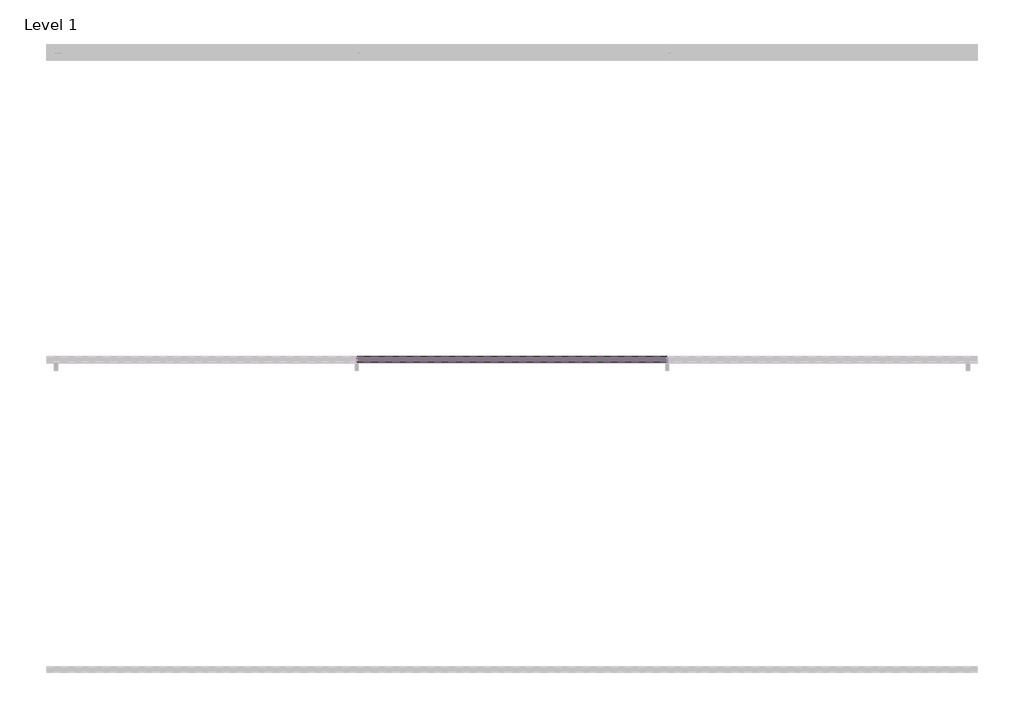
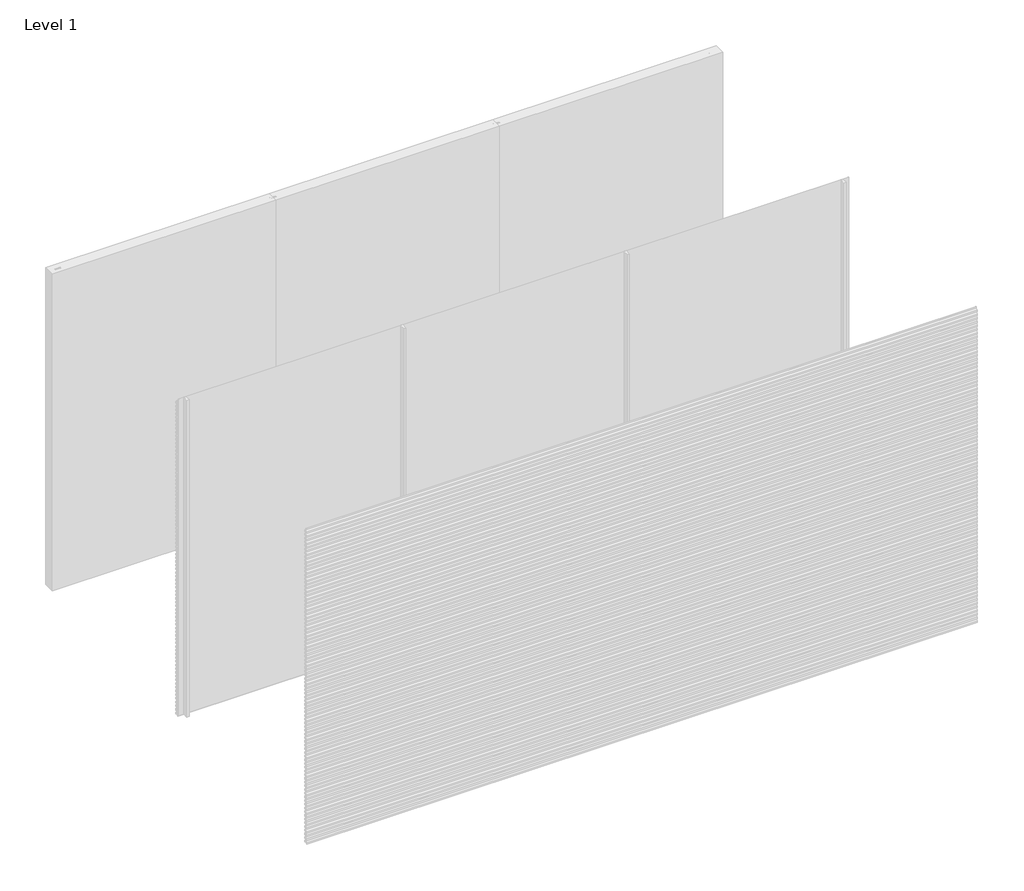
# One storey, part 12 of 17: 81 proxies.
"""IFC4 building model written with IfcOpenShell, lengths in millimetres."""

from ifc_helpers import new_model, si_unit, frame, origin, place, context, project, spatial, polyline, outline, extrude, element, save

model = new_model("IFC4")

# Units and contexts
model_context = context("Model", 3, world=origin())
ifc_project = project(units=[si_unit("LENGTHUNIT", "METRE", prefix="MILLI")], contexts=[model_context])

# Site, building, storey
site = spatial("IfcSite", under=ifc_project)
building = spatial("IfcBuilding", under=site)
storey = spatial("IfcBuildingStorey", under=building, Name="Level 1", Elevation=0.0)

# Proxies
placement = place(None, origin())
element("IfcBuildingElementProxy", 1, Name="Wall Sweeps", at=placement, inside=storey, context=model_context, shape_type="SweptSolid", body=[
    extrude(outline(polyline([(-5961.0, 2776.5), (-5961.0, 2761.5), (-5979.0, 2773.6411533), (-5997.0, 2761.5), (-5997.0, 2776.5), (-5980.0, 2787.9666448), (-5980.0, 2800.0), (-5978.0, 2800.0), (-5978.0, 2787.9666448), (-5961.0, 2776.5)])), frame((2000.0, 0.0, 0.0), z_axis=(1.0, 0.0, 0.0), x_axis=(0.0, 1.0, 0.0)), (0.0, 0.0, 1.0), 2000.0),
])
element("IfcBuildingElementProxy", 2, Name="Wall Sweeps", at=placement, inside=storey, context=model_context, shape_type="SweptSolid", body=[
    extrude(outline(polyline([(-5961.0, 2741.5), (-5961.0, 2726.5), (-5979.0, 2738.6411533), (-5997.0, 2726.5), (-5997.0, 2741.5), (-5980.0, 2752.9666448), (-5980.0, 2765.0), (-5978.0, 2765.0), (-5978.0, 2752.9666448), (-5961.0, 2741.5)])), frame((2000.0, 0.0, 0.0), z_axis=(1.0, 0.0, 0.0), x_axis=(0.0, 1.0, 0.0)), (0.0, 0.0, 1.0), 2000.0),
])
element("IfcBuildingElementProxy", 3, Name="Wall Sweeps", at=placement, inside=storey, context=model_context, shape_type="SweptSolid", body=[
    extrude(outline(polyline([(-5961.0, 2706.5), (-5961.0, 2691.5), (-5979.0, 2703.6411533), (-5997.0, 2691.5), (-5997.0, 2706.5), (-5980.0, 2717.9666448), (-5980.0, 2730.0), (-5978.0, 2730.0), (-5978.0, 2717.9666448), (-5961.0, 2706.5)])), frame((2000.0, 0.0, 0.0), z_axis=(1.0, 0.0, 0.0), x_axis=(0.0, 1.0, 0.0)), (0.0, 0.0, 1.0), 2000.0),
])
element("IfcBuildingElementProxy", 4, Name="Wall Sweeps", at=placement, inside=storey, context=model_context, shape_type="SweptSolid", body=[
    extrude(outline(polyline([(-5961.0, 2671.5), (-5961.0, 2656.5), (-5979.0, 2668.6411533), (-5997.0, 2656.5), (-5997.0, 2671.5), (-5980.0, 2682.9666448), (-5980.0, 2695.0), (-5978.0, 2695.0), (-5978.0, 2682.9666448), (-5961.0, 2671.5)])), frame((2000.0, 0.0, 0.0), z_axis=(1.0, 0.0, 0.0), x_axis=(0.0, 1.0, 0.0)), (0.0, 0.0, 1.0), 2000.0),
])
element("IfcBuildingElementProxy", 5, Name="Wall Sweeps", at=placement, inside=storey, context=model_context, shape_type="SweptSolid", body=[
    extrude(outline(polyline([(-5961.0, 2636.5), (-5961.0, 2621.5), (-5979.0, 2633.6411533), (-5997.0, 2621.5), (-5997.0, 2636.5), (-5980.0, 2647.9666448), (-5980.0, 2660.0), (-5978.0, 2660.0), (-5978.0, 2647.9666448), (-5961.0, 2636.5)])), frame((2000.0, 0.0, 0.0), z_axis=(1.0, 0.0, 0.0), x_axis=(0.0, 1.0, 0.0)), (0.0, 0.0, 1.0), 2000.0),
])
element("IfcBuildingElementProxy", 6, Name="Wall Sweeps", at=placement, inside=storey, context=model_context, shape_type="SweptSolid", body=[
    extrude(outline(polyline([(-5961.0, 2601.5), (-5961.0, 2586.5), (-5979.0, 2598.6411533), (-5997.0, 2586.5), (-5997.0, 2601.5), (-5980.0, 2612.9666448), (-5980.0, 2625.0), (-5978.0, 2625.0), (-5978.0, 2612.9666448), (-5961.0, 2601.5)])), frame((2000.0, 0.0, 0.0), z_axis=(1.0, 0.0, 0.0), x_axis=(0.0, 1.0, 0.0)), (0.0, 0.0, 1.0), 2000.0),
])
element("IfcBuildingElementProxy", 7, Name="Wall Sweeps", at=placement, inside=storey, context=model_context, shape_type="SweptSolid", body=[
    extrude(outline(polyline([(-5961.0, 2566.5), (-5961.0, 2551.5), (-5979.0, 2563.6411533), (-5997.0, 2551.5), (-5997.0, 2566.5), (-5980.0, 2577.9666448), (-5980.0, 2590.0), (-5978.0, 2590.0), (-5978.0, 2577.9666448), (-5961.0, 2566.5)])), frame((2000.0, 0.0, 0.0), z_axis=(1.0, 0.0, 0.0), x_axis=(0.0, 1.0, 0.0)), (0.0, 0.0, 1.0), 2000.0),
])
element("IfcBuildingElementProxy", 8, Name="Wall Sweeps", at=placement, inside=storey, context=model_context, shape_type="SweptSolid", body=[
    extrude(outline(polyline([(-5961.0, 2531.5), (-5961.0, 2516.5), (-5979.0, 2528.6411533), (-5997.0, 2516.5), (-5997.0, 2531.5), (-5980.0, 2542.9666448), (-5980.0, 2555.0), (-5978.0, 2555.0), (-5978.0, 2542.9666448), (-5961.0, 2531.5)])), frame((2000.0, 0.0, 0.0), z_axis=(1.0, 0.0, 0.0), x_axis=(0.0, 1.0, 0.0)), (0.0, 0.0, 1.0), 2000.0),
])
element("IfcBuildingElementProxy", 9, Name="Wall Sweeps", at=placement, inside=storey, context=model_context, shape_type="SweptSolid", body=[
    extrude(outline(polyline([(-5961.0, 2496.5), (-5961.0, 2481.5), (-5979.0, 2493.6411533), (-5997.0, 2481.5), (-5997.0, 2496.5), (-5980.0, 2507.9666448), (-5980.0, 2520.0), (-5978.0, 2520.0), (-5978.0, 2507.9666448), (-5961.0, 2496.5)])), frame((2000.0, 0.0, 0.0), z_axis=(1.0, 0.0, 0.0), x_axis=(0.0, 1.0, 0.0)), (0.0, 0.0, 1.0), 2000.0),
])
element("IfcBuildingElementProxy", 10, Name="Wall Sweeps", at=placement, inside=storey, context=model_context, shape_type="SweptSolid", body=[
    extrude(outline(polyline([(-5961.0, 2461.5), (-5961.0, 2446.5), (-5979.0, 2458.6411533), (-5997.0, 2446.5), (-5997.0, 2461.5), (-5980.0, 2472.9666448), (-5980.0, 2485.0), (-5978.0, 2485.0), (-5978.0, 2472.9666448), (-5961.0, 2461.5)])), frame((2000.0, 0.0, 0.0), z_axis=(1.0, 0.0, 0.0), x_axis=(0.0, 1.0, 0.0)), (0.0, 0.0, 1.0), 2000.0),
])
element("IfcBuildingElementProxy", 11, Name="Wall Sweeps", at=placement, inside=storey, context=model_context, shape_type="SweptSolid", body=[
    extrude(outline(polyline([(-5961.0, 2426.5), (-5961.0, 2411.5), (-5979.0, 2423.6411533), (-5997.0, 2411.5), (-5997.0, 2426.5), (-5980.0, 2437.9666448), (-5980.0, 2450.0), (-5978.0, 2450.0), (-5978.0, 2437.9666448), (-5961.0, 2426.5)])), frame((2000.0, 0.0, 0.0), z_axis=(1.0, 0.0, 0.0), x_axis=(0.0, 1.0, 0.0)), (0.0, 0.0, 1.0), 2000.0),
])
element("IfcBuildingElementProxy", 12, Name="Wall Sweeps", at=placement, inside=storey, context=model_context, shape_type="SweptSolid", body=[
    extrude(outline(polyline([(-5961.0, 2391.5), (-5961.0, 2376.5), (-5979.0, 2388.6411533), (-5997.0, 2376.5), (-5997.0, 2391.5), (-5980.0, 2402.9666448), (-5980.0, 2415.0), (-5978.0, 2415.0), (-5978.0, 2402.9666448), (-5961.0, 2391.5)])), frame((2000.0, 0.0, 0.0), z_axis=(1.0, 0.0, 0.0), x_axis=(0.0, 1.0, 0.0)), (0.0, 0.0, 1.0), 2000.0),
])
element("IfcBuildingElementProxy", 13, Name="Wall Sweeps", at=placement, inside=storey, context=model_context, shape_type="SweptSolid", body=[
    extrude(outline(polyline([(-5961.0, 2356.5), (-5961.0, 2341.5), (-5979.0, 2353.6411533), (-5997.0, 2341.5), (-5997.0, 2356.5), (-5980.0, 2367.9666448), (-5980.0, 2380.0), (-5978.0, 2380.0), (-5978.0, 2367.9666448), (-5961.0, 2356.5)])), frame((2000.0, 0.0, 0.0), z_axis=(1.0, 0.0, 0.0), x_axis=(0.0, 1.0, 0.0)), (0.0, 0.0, 1.0), 2000.0),
])
element("IfcBuildingElementProxy", 14, Name="Wall Sweeps", at=placement, inside=storey, context=model_context, shape_type="SweptSolid", body=[
    extrude(outline(polyline([(-5961.0, 2321.5), (-5961.0, 2306.5), (-5979.0, 2318.6411533), (-5997.0, 2306.5), (-5997.0, 2321.5), (-5980.0, 2332.9666448), (-5980.0, 2345.0), (-5978.0, 2345.0), (-5978.0, 2332.9666448), (-5961.0, 2321.5)])), frame((2000.0, 0.0, 0.0), z_axis=(1.0, 0.0, 0.0), x_axis=(0.0, 1.0, 0.0)), (0.0, 0.0, 1.0), 2000.0),
])
element("IfcBuildingElementProxy", 15, Name="Wall Sweeps", at=placement, inside=storey, context=model_context, shape_type="SweptSolid", body=[
    extrude(outline(polyline([(-5961.0, 2286.5), (-5961.0, 2271.5), (-5979.0, 2283.6411533), (-5997.0, 2271.5), (-5997.0, 2286.5), (-5980.0, 2297.9666448), (-5980.0, 2310.0), (-5978.0, 2310.0), (-5978.0, 2297.9666448), (-5961.0, 2286.5)])), frame((2000.0, 0.0, 0.0), z_axis=(1.0, 0.0, 0.0), x_axis=(0.0, 1.0, 0.0)), (0.0, 0.0, 1.0), 2000.0),
])
element("IfcBuildingElementProxy", 16, Name="Wall Sweeps", at=placement, inside=storey, context=model_context, shape_type="SweptSolid", body=[
    extrude(outline(polyline([(-5961.0, 2251.5), (-5961.0, 2236.5), (-5979.0, 2248.6411533), (-5997.0, 2236.5), (-5997.0, 2251.5), (-5980.0, 2262.9666448), (-5980.0, 2275.0), (-5978.0, 2275.0), (-5978.0, 2262.9666448), (-5961.0, 2251.5)])), frame((2000.0, 0.0, 0.0), z_axis=(1.0, 0.0, 0.0), x_axis=(0.0, 1.0, 0.0)), (0.0, 0.0, 1.0), 2000.0),
])
element("IfcBuildingElementProxy", 17, Name="Wall Sweeps", at=placement, inside=storey, context=model_context, shape_type="SweptSolid", body=[
    extrude(outline(polyline([(-5961.0, 2216.5), (-5961.0, 2201.5), (-5979.0, 2213.6411533), (-5997.0, 2201.5), (-5997.0, 2216.5), (-5980.0, 2227.9666448), (-5980.0, 2240.0), (-5978.0, 2240.0), (-5978.0, 2227.9666448), (-5961.0, 2216.5)])), frame((2000.0, 0.0, 0.0), z_axis=(1.0, 0.0, 0.0), x_axis=(0.0, 1.0, 0.0)), (0.0, 0.0, 1.0), 2000.0),
])
element("IfcBuildingElementProxy", 18, Name="Wall Sweeps", at=placement, inside=storey, context=model_context, shape_type="SweptSolid", body=[
    extrude(outline(polyline([(-5961.0, 2181.5), (-5961.0, 2166.5), (-5979.0, 2178.6411533), (-5997.0, 2166.5), (-5997.0, 2181.5), (-5980.0, 2192.9666448), (-5980.0, 2205.0), (-5978.0, 2205.0), (-5978.0, 2192.9666448), (-5961.0, 2181.5)])), frame((2000.0, 0.0, 0.0), z_axis=(1.0, 0.0, 0.0), x_axis=(0.0, 1.0, 0.0)), (0.0, 0.0, 1.0), 2000.0),
])
element("IfcBuildingElementProxy", 19, Name="Wall Sweeps", at=placement, inside=storey, context=model_context, shape_type="SweptSolid", body=[
    extrude(outline(polyline([(-5961.0, 2146.5), (-5961.0, 2131.5), (-5979.0, 2143.6411533), (-5997.0, 2131.5), (-5997.0, 2146.5), (-5980.0, 2157.9666448), (-5980.0, 2170.0), (-5978.0, 2170.0), (-5978.0, 2157.9666448), (-5961.0, 2146.5)])), frame((2000.0, 0.0, 0.0), z_axis=(1.0, 0.0, 0.0), x_axis=(0.0, 1.0, 0.0)), (0.0, 0.0, 1.0), 2000.0),
])
element("IfcBuildingElementProxy", 20, Name="Wall Sweeps", at=placement, inside=storey, context=model_context, shape_type="SweptSolid", body=[
    extrude(outline(polyline([(-5961.0, 2111.5), (-5961.0, 2096.5), (-5979.0, 2108.6411533), (-5997.0, 2096.5), (-5997.0, 2111.5), (-5980.0, 2122.9666448), (-5980.0, 2135.0), (-5978.0, 2135.0), (-5978.0, 2122.9666448), (-5961.0, 2111.5)])), frame((2000.0, 0.0, 0.0), z_axis=(1.0, 0.0, 0.0), x_axis=(0.0, 1.0, 0.0)), (0.0, 0.0, 1.0), 2000.0),
])
element("IfcBuildingElementProxy", 21, Name="Wall Sweeps", at=placement, inside=storey, context=model_context, shape_type="SweptSolid", body=[
    extrude(outline(polyline([(-5961.0, 2076.5), (-5961.0, 2061.5), (-5979.0, 2073.6411533), (-5997.0, 2061.5), (-5997.0, 2076.5), (-5980.0, 2087.9666448), (-5980.0, 2100.0), (-5978.0, 2100.0), (-5978.0, 2087.9666448), (-5961.0, 2076.5)])), frame((2000.0, 0.0, 0.0), z_axis=(1.0, 0.0, 0.0), x_axis=(0.0, 1.0, 0.0)), (0.0, 0.0, 1.0), 2000.0),
])
element("IfcBuildingElementProxy", 22, Name="Wall Sweeps", at=placement, inside=storey, context=model_context, shape_type="SweptSolid", body=[
    extrude(outline(polyline([(-5961.0, 2041.5), (-5961.0, 2026.5), (-5979.0, 2038.6411533), (-5997.0, 2026.5), (-5997.0, 2041.5), (-5980.0, 2052.9666448), (-5980.0, 2065.0), (-5978.0, 2065.0), (-5978.0, 2052.9666448), (-5961.0, 2041.5)])), frame((2000.0, 0.0, 0.0), z_axis=(1.0, 0.0, 0.0), x_axis=(0.0, 1.0, 0.0)), (0.0, 0.0, 1.0), 2000.0),
])
element("IfcBuildingElementProxy", 23, Name="Wall Sweeps", at=placement, inside=storey, context=model_context, shape_type="SweptSolid", body=[
    extrude(outline(polyline([(-5961.0, 2006.5), (-5961.0, 1991.5), (-5979.0, 2003.6411533), (-5997.0, 1991.5), (-5997.0, 2006.5), (-5980.0, 2017.9666448), (-5980.0, 2030.0), (-5978.0, 2030.0), (-5978.0, 2017.9666448), (-5961.0, 2006.5)])), frame((2000.0, 0.0, 0.0), z_axis=(1.0, 0.0, 0.0), x_axis=(0.0, 1.0, 0.0)), (0.0, 0.0, 1.0), 2000.0),
])
element("IfcBuildingElementProxy", 24, Name="Wall Sweeps", at=placement, inside=storey, context=model_context, shape_type="SweptSolid", body=[
    extrude(outline(polyline([(-5961.0, 1971.5), (-5961.0, 1956.5), (-5979.0, 1968.6411533), (-5997.0, 1956.5), (-5997.0, 1971.5), (-5980.0, 1982.9666448), (-5980.0, 1995.0), (-5978.0, 1995.0), (-5978.0, 1982.9666448), (-5961.0, 1971.5)])), frame((2000.0, 0.0, 0.0), z_axis=(1.0, 0.0, 0.0), x_axis=(0.0, 1.0, 0.0)), (0.0, 0.0, 1.0), 2000.0),
])
element("IfcBuildingElementProxy", 25, Name="Wall Sweeps", at=placement, inside=storey, context=model_context, shape_type="SweptSolid", body=[
    extrude(outline(polyline([(-5961.0, 1936.5), (-5961.0, 1921.5), (-5979.0, 1933.6411533), (-5997.0, 1921.5), (-5997.0, 1936.5), (-5980.0, 1947.9666448), (-5980.0, 1960.0), (-5978.0, 1960.0), (-5978.0, 1947.9666448), (-5961.0, 1936.5)])), frame((2000.0, 0.0, 0.0), z_axis=(1.0, 0.0, 0.0), x_axis=(0.0, 1.0, 0.0)), (0.0, 0.0, 1.0), 2000.0),
])
element("IfcBuildingElementProxy", 26, Name="Wall Sweeps", at=placement, inside=storey, context=model_context, shape_type="SweptSolid", body=[
    extrude(outline(polyline([(-5961.0, 1901.5), (-5961.0, 1886.5), (-5979.0, 1898.6411533), (-5997.0, 1886.5), (-5997.0, 1901.5), (-5980.0, 1912.9666448), (-5980.0, 1925.0), (-5978.0, 1925.0), (-5978.0, 1912.9666448), (-5961.0, 1901.5)])), frame((2000.0, 0.0, 0.0), z_axis=(1.0, 0.0, 0.0), x_axis=(0.0, 1.0, 0.0)), (0.0, 0.0, 1.0), 2000.0),
])
element("IfcBuildingElementProxy", 27, Name="Wall Sweeps", at=placement, inside=storey, context=model_context, shape_type="SweptSolid", body=[
    extrude(outline(polyline([(-5961.0, 1866.5), (-5961.0, 1851.5), (-5979.0, 1863.6411533), (-5997.0, 1851.5), (-5997.0, 1866.5), (-5980.0, 1877.9666448), (-5980.0, 1890.0), (-5978.0, 1890.0), (-5978.0, 1877.9666448), (-5961.0, 1866.5)])), frame((2000.0, 0.0, 0.0), z_axis=(1.0, 0.0, 0.0), x_axis=(0.0, 1.0, 0.0)), (0.0, 0.0, 1.0), 2000.0),
])
element("IfcBuildingElementProxy", 28, Name="Wall Sweeps", at=placement, inside=storey, context=model_context, shape_type="SweptSolid", body=[
    extrude(outline(polyline([(-5961.0, 1831.5), (-5961.0, 1816.5), (-5979.0, 1828.6411533), (-5997.0, 1816.5), (-5997.0, 1831.5), (-5980.0, 1842.9666448), (-5980.0, 1855.0), (-5978.0, 1855.0), (-5978.0, 1842.9666448), (-5961.0, 1831.5)])), frame((2000.0, 0.0, 0.0), z_axis=(1.0, 0.0, 0.0), x_axis=(0.0, 1.0, 0.0)), (0.0, 0.0, 1.0), 2000.0),
])
element("IfcBuildingElementProxy", 29, Name="Wall Sweeps", at=placement, inside=storey, context=model_context, shape_type="SweptSolid", body=[
    extrude(outline(polyline([(-5961.0, 1796.5), (-5961.0, 1781.5), (-5979.0, 1793.6411533), (-5997.0, 1781.5), (-5997.0, 1796.5), (-5980.0, 1807.9666448), (-5980.0, 1820.0), (-5978.0, 1820.0), (-5978.0, 1807.9666448), (-5961.0, 1796.5)])), frame((2000.0, 0.0, 0.0), z_axis=(1.0, 0.0, 0.0), x_axis=(0.0, 1.0, 0.0)), (0.0, 0.0, 1.0), 2000.0),
])
element("IfcBuildingElementProxy", 30, Name="Wall Sweeps", at=placement, inside=storey, context=model_context, shape_type="SweptSolid", body=[
    extrude(outline(polyline([(-5961.0, 1761.5), (-5961.0, 1746.5), (-5979.0, 1758.6411533), (-5997.0, 1746.5), (-5997.0, 1761.5), (-5980.0, 1772.9666448), (-5980.0, 1785.0), (-5978.0, 1785.0), (-5978.0, 1772.9666448), (-5961.0, 1761.5)])), frame((2000.0, 0.0, 0.0), z_axis=(1.0, 0.0, 0.0), x_axis=(0.0, 1.0, 0.0)), (0.0, 0.0, 1.0), 2000.0),
])
element("IfcBuildingElementProxy", 31, Name="Wall Sweeps", at=placement, inside=storey, context=model_context, shape_type="SweptSolid", body=[
    extrude(outline(polyline([(-5961.0, 1726.5), (-5961.0, 1711.5), (-5979.0, 1723.6411533), (-5997.0, 1711.5), (-5997.0, 1726.5), (-5980.0, 1737.9666448), (-5980.0, 1750.0), (-5978.0, 1750.0), (-5978.0, 1737.9666448), (-5961.0, 1726.5)])), frame((2000.0, 0.0, 0.0), z_axis=(1.0, 0.0, 0.0), x_axis=(0.0, 1.0, 0.0)), (0.0, 0.0, 1.0), 2000.0),
])
element("IfcBuildingElementProxy", 32, Name="Wall Sweeps", at=placement, inside=storey, context=model_context, shape_type="SweptSolid", body=[
    extrude(outline(polyline([(-5961.0, 1691.5), (-5961.0, 1676.5), (-5979.0, 1688.6411533), (-5997.0, 1676.5), (-5997.0, 1691.5), (-5980.0, 1702.9666448), (-5980.0, 1715.0), (-5978.0, 1715.0), (-5978.0, 1702.9666448), (-5961.0, 1691.5)])), frame((2000.0, 0.0, 0.0), z_axis=(1.0, 0.0, 0.0), x_axis=(0.0, 1.0, 0.0)), (0.0, 0.0, 1.0), 2000.0),
])
element("IfcBuildingElementProxy", 33, Name="Wall Sweeps", at=placement, inside=storey, context=model_context, shape_type="SweptSolid", body=[
    extrude(outline(polyline([(-5961.0, 1656.5), (-5961.0, 1641.5), (-5979.0, 1653.6411533), (-5997.0, 1641.5), (-5997.0, 1656.5), (-5980.0, 1667.9666448), (-5980.0, 1680.0), (-5978.0, 1680.0), (-5978.0, 1667.9666448), (-5961.0, 1656.5)])), frame((2000.0, 0.0, 0.0), z_axis=(1.0, 0.0, 0.0), x_axis=(0.0, 1.0, 0.0)), (0.0, 0.0, 1.0), 2000.0),
])
element("IfcBuildingElementProxy", 34, Name="Wall Sweeps", at=placement, inside=storey, context=model_context, shape_type="SweptSolid", body=[
    extrude(outline(polyline([(-5961.0, 1621.5), (-5961.0, 1606.5), (-5979.0, 1618.6411533), (-5997.0, 1606.5), (-5997.0, 1621.5), (-5980.0, 1632.9666448), (-5980.0, 1645.0), (-5978.0, 1645.0), (-5978.0, 1632.9666448), (-5961.0, 1621.5)])), frame((2000.0, 0.0, 0.0), z_axis=(1.0, 0.0, 0.0), x_axis=(0.0, 1.0, 0.0)), (0.0, 0.0, 1.0), 2000.0),
])
element("IfcBuildingElementProxy", 35, Name="Wall Sweeps", at=placement, inside=storey, context=model_context, shape_type="SweptSolid", body=[
    extrude(outline(polyline([(-5961.0, 1586.5), (-5961.0, 1571.5), (-5979.0, 1583.6411533), (-5997.0, 1571.5), (-5997.0, 1586.5), (-5980.0, 1597.9666448), (-5980.0, 1610.0), (-5978.0, 1610.0), (-5978.0, 1597.9666448), (-5961.0, 1586.5)])), frame((2000.0, 0.0, 0.0), z_axis=(1.0, 0.0, 0.0), x_axis=(0.0, 1.0, 0.0)), (0.0, 0.0, 1.0), 2000.0),
])
element("IfcBuildingElementProxy", 36, Name="Wall Sweeps", at=placement, inside=storey, context=model_context, shape_type="SweptSolid", body=[
    extrude(outline(polyline([(-5961.0, 1551.5), (-5961.0, 1536.5), (-5979.0, 1548.6411533), (-5997.0, 1536.5), (-5997.0, 1551.5), (-5980.0, 1562.9666448), (-5980.0, 1575.0), (-5978.0, 1575.0), (-5978.0, 1562.9666448), (-5961.0, 1551.5)])), frame((2000.0, 0.0, 0.0), z_axis=(1.0, 0.0, 0.0), x_axis=(0.0, 1.0, 0.0)), (0.0, 0.0, 1.0), 2000.0),
])
element("IfcBuildingElementProxy", 37, Name="Wall Sweeps", at=placement, inside=storey, context=model_context, shape_type="SweptSolid", body=[
    extrude(outline(polyline([(-5961.0, 1516.5), (-5961.0, 1501.5), (-5979.0, 1513.6411533), (-5997.0, 1501.5), (-5997.0, 1516.5), (-5980.0, 1527.9666448), (-5980.0, 1540.0), (-5978.0, 1540.0), (-5978.0, 1527.9666448), (-5961.0, 1516.5)])), frame((2000.0, 0.0, 0.0), z_axis=(1.0, 0.0, 0.0), x_axis=(0.0, 1.0, 0.0)), (0.0, 0.0, 1.0), 2000.0),
])
element("IfcBuildingElementProxy", 38, Name="Wall Sweeps", at=placement, inside=storey, context=model_context, shape_type="SweptSolid", body=[
    extrude(outline(polyline([(-5961.0, 1481.5), (-5961.0, 1466.5), (-5979.0, 1478.6411533), (-5997.0, 1466.5), (-5997.0, 1481.5), (-5980.0, 1492.9666448), (-5980.0, 1505.0), (-5978.0, 1505.0), (-5978.0, 1492.9666448), (-5961.0, 1481.5)])), frame((2000.0, 0.0, 0.0), z_axis=(1.0, 0.0, 0.0), x_axis=(0.0, 1.0, 0.0)), (0.0, 0.0, 1.0), 2000.0),
])
element("IfcBuildingElementProxy", 39, Name="Wall Sweeps", at=placement, inside=storey, context=model_context, shape_type="SweptSolid", body=[
    extrude(outline(polyline([(-5961.0, 1446.5), (-5961.0, 1431.5), (-5979.0, 1443.6411533), (-5997.0, 1431.5), (-5997.0, 1446.5), (-5980.0, 1457.9666448), (-5980.0, 1470.0), (-5978.0, 1470.0), (-5978.0, 1457.9666448), (-5961.0, 1446.5)])), frame((2000.0, 0.0, 0.0), z_axis=(1.0, 0.0, 0.0), x_axis=(0.0, 1.0, 0.0)), (0.0, 0.0, 1.0), 2000.0),
])
element("IfcBuildingElementProxy", 40, Name="Wall Sweeps", at=placement, inside=storey, context=model_context, shape_type="SweptSolid", body=[
    extrude(outline(polyline([(-5961.0, 1411.5), (-5961.0, 1396.5), (-5979.0, 1408.6411533), (-5997.0, 1396.5), (-5997.0, 1411.5), (-5980.0, 1422.9666448), (-5980.0, 1435.0), (-5978.0, 1435.0), (-5978.0, 1422.9666448), (-5961.0, 1411.5)])), frame((2000.0, 0.0, 0.0), z_axis=(1.0, 0.0, 0.0), x_axis=(0.0, 1.0, 0.0)), (0.0, 0.0, 1.0), 2000.0),
])
element("IfcBuildingElementProxy", 41, Name="Wall Sweeps", at=placement, inside=storey, context=model_context, shape_type="SweptSolid", body=[
    extrude(outline(polyline([(-5961.0, 1376.5), (-5961.0, 1361.5), (-5979.0, 1373.6411533), (-5997.0, 1361.5), (-5997.0, 1376.5), (-5980.0, 1387.9666448), (-5980.0, 1400.0), (-5978.0, 1400.0), (-5978.0, 1387.9666448), (-5961.0, 1376.5)])), frame((2000.0, 0.0, 0.0), z_axis=(1.0, 0.0, 0.0), x_axis=(0.0, 1.0, 0.0)), (0.0, 0.0, 1.0), 2000.0),
])
element("IfcBuildingElementProxy", 42, Name="Wall Sweeps", at=placement, inside=storey, context=model_context, shape_type="SweptSolid", body=[
    extrude(outline(polyline([(-5961.0, 1341.5), (-5961.0, 1326.5), (-5979.0, 1338.6411533), (-5997.0, 1326.5), (-5997.0, 1341.5), (-5980.0, 1352.9666448), (-5980.0, 1365.0), (-5978.0, 1365.0), (-5978.0, 1352.9666448), (-5961.0, 1341.5)])), frame((2000.0, 0.0, 0.0), z_axis=(1.0, 0.0, 0.0), x_axis=(0.0, 1.0, 0.0)), (0.0, 0.0, 1.0), 2000.0),
])
element("IfcBuildingElementProxy", 43, Name="Wall Sweeps", at=placement, inside=storey, context=model_context, shape_type="SweptSolid", body=[
    extrude(outline(polyline([(-5961.0, 1306.5), (-5961.0, 1291.5), (-5979.0, 1303.6411533), (-5997.0, 1291.5), (-5997.0, 1306.5), (-5980.0, 1317.9666448), (-5980.0, 1330.0), (-5978.0, 1330.0), (-5978.0, 1317.9666448), (-5961.0, 1306.5)])), frame((2000.0, 0.0, 0.0), z_axis=(1.0, 0.0, 0.0), x_axis=(0.0, 1.0, 0.0)), (0.0, 0.0, 1.0), 2000.0),
])
element("IfcBuildingElementProxy", 44, Name="Wall Sweeps", at=placement, inside=storey, context=model_context, shape_type="SweptSolid", body=[
    extrude(outline(polyline([(-5961.0, 1271.5), (-5961.0, 1256.5), (-5979.0, 1268.6411533), (-5997.0, 1256.5), (-5997.0, 1271.5), (-5980.0, 1282.9666448), (-5980.0, 1295.0), (-5978.0, 1295.0), (-5978.0, 1282.9666448), (-5961.0, 1271.5)])), frame((2000.0, 0.0, 0.0), z_axis=(1.0, 0.0, 0.0), x_axis=(0.0, 1.0, 0.0)), (0.0, 0.0, 1.0), 2000.0),
])
element("IfcBuildingElementProxy", 45, Name="Wall Sweeps", at=placement, inside=storey, context=model_context, shape_type="SweptSolid", body=[
    extrude(outline(polyline([(-5961.0, 1236.5), (-5961.0, 1221.5), (-5979.0, 1233.6411533), (-5997.0, 1221.5), (-5997.0, 1236.5), (-5980.0, 1247.9666448), (-5980.0, 1260.0), (-5978.0, 1260.0), (-5978.0, 1247.9666448), (-5961.0, 1236.5)])), frame((2000.0, 0.0, 0.0), z_axis=(1.0, 0.0, 0.0), x_axis=(0.0, 1.0, 0.0)), (0.0, 0.0, 1.0), 2000.0),
])
element("IfcBuildingElementProxy", 46, Name="Wall Sweeps", at=placement, inside=storey, context=model_context, shape_type="SweptSolid", body=[
    extrude(outline(polyline([(-5961.0, 1201.5), (-5961.0, 1186.5), (-5979.0, 1198.6411533), (-5997.0, 1186.5), (-5997.0, 1201.5), (-5980.0, 1212.9666448), (-5980.0, 1225.0), (-5978.0, 1225.0), (-5978.0, 1212.9666448), (-5961.0, 1201.5)])), frame((2000.0, 0.0, 0.0), z_axis=(1.0, 0.0, 0.0), x_axis=(0.0, 1.0, 0.0)), (0.0, 0.0, 1.0), 2000.0),
])
element("IfcBuildingElementProxy", 47, Name="Wall Sweeps", at=placement, inside=storey, context=model_context, shape_type="SweptSolid", body=[
    extrude(outline(polyline([(-5961.0, 1166.5), (-5961.0, 1151.5), (-5979.0, 1163.6411533), (-5997.0, 1151.5), (-5997.0, 1166.5), (-5980.0, 1177.9666448), (-5980.0, 1190.0), (-5978.0, 1190.0), (-5978.0, 1177.9666448), (-5961.0, 1166.5)])), frame((2000.0, 0.0, 0.0), z_axis=(1.0, 0.0, 0.0), x_axis=(0.0, 1.0, 0.0)), (0.0, 0.0, 1.0), 2000.0),
])
element("IfcBuildingElementProxy", 48, Name="Wall Sweeps", at=placement, inside=storey, context=model_context, shape_type="SweptSolid", body=[
    extrude(outline(polyline([(-5961.0, 1131.5), (-5961.0, 1116.5), (-5979.0, 1128.6411533), (-5997.0, 1116.5), (-5997.0, 1131.5), (-5980.0, 1142.9666448), (-5980.0, 1155.0), (-5978.0, 1155.0), (-5978.0, 1142.9666448), (-5961.0, 1131.5)])), frame((2000.0, 0.0, 0.0), z_axis=(1.0, 0.0, 0.0), x_axis=(0.0, 1.0, 0.0)), (0.0, 0.0, 1.0), 2000.0),
])
element("IfcBuildingElementProxy", 49, Name="Wall Sweeps", at=placement, inside=storey, context=model_context, shape_type="SweptSolid", body=[
    extrude(outline(polyline([(-5961.0, 1096.5), (-5961.0, 1081.5), (-5979.0, 1093.6411533), (-5997.0, 1081.5), (-5997.0, 1096.5), (-5980.0, 1107.9666448), (-5980.0, 1120.0), (-5978.0, 1120.0), (-5978.0, 1107.9666448), (-5961.0, 1096.5)])), frame((2000.0, 0.0, 0.0), z_axis=(1.0, 0.0, 0.0), x_axis=(0.0, 1.0, 0.0)), (0.0, 0.0, 1.0), 2000.0),
])
element("IfcBuildingElementProxy", 50, Name="Wall Sweeps", at=placement, inside=storey, context=model_context, shape_type="SweptSolid", body=[
    extrude(outline(polyline([(-5961.0, 1061.5), (-5961.0, 1046.5), (-5979.0, 1058.6411533), (-5997.0, 1046.5), (-5997.0, 1061.5), (-5980.0, 1072.9666448), (-5980.0, 1085.0), (-5978.0, 1085.0), (-5978.0, 1072.9666448), (-5961.0, 1061.5)])), frame((2000.0, 0.0, 0.0), z_axis=(1.0, 0.0, 0.0), x_axis=(0.0, 1.0, 0.0)), (0.0, 0.0, 1.0), 2000.0),
])
element("IfcBuildingElementProxy", 51, Name="Wall Sweeps", at=placement, inside=storey, context=model_context, shape_type="SweptSolid", body=[
    extrude(outline(polyline([(-5961.0, 1026.5), (-5961.0, 1011.5), (-5979.0, 1023.6411533), (-5997.0, 1011.5), (-5997.0, 1026.5), (-5980.0, 1037.9666448), (-5980.0, 1050.0), (-5978.0, 1050.0), (-5978.0, 1037.9666448), (-5961.0, 1026.5)])), frame((2000.0, 0.0, 0.0), z_axis=(1.0, 0.0, 0.0), x_axis=(0.0, 1.0, 0.0)), (0.0, 0.0, 1.0), 2000.0),
])
element("IfcBuildingElementProxy", 52, Name="Wall Sweeps", at=placement, inside=storey, context=model_context, shape_type="SweptSolid", body=[
    extrude(outline(polyline([(-5961.0, 991.5), (-5961.0, 976.5), (-5979.0, 988.6411533), (-5997.0, 976.5), (-5997.0, 991.5), (-5980.0, 1002.9666448), (-5980.0, 1015.0), (-5978.0, 1015.0), (-5978.0, 1002.9666448), (-5961.0, 991.5)])), frame((2000.0, 0.0, 0.0), z_axis=(1.0, 0.0, 0.0), x_axis=(0.0, 1.0, 0.0)), (0.0, 0.0, 1.0), 2000.0),
])
element("IfcBuildingElementProxy", 53, Name="Wall Sweeps", at=placement, inside=storey, context=model_context, shape_type="SweptSolid", body=[
    extrude(outline(polyline([(-5961.0, 956.5), (-5961.0, 941.5), (-5979.0, 953.6411533), (-5997.0, 941.5), (-5997.0, 956.5), (-5980.0, 967.9666448), (-5980.0, 980.0), (-5978.0, 980.0), (-5978.0, 967.9666448), (-5961.0, 956.5)])), frame((2000.0, 0.0, 0.0), z_axis=(1.0, 0.0, 0.0), x_axis=(0.0, 1.0, 0.0)), (0.0, 0.0, 1.0), 2000.0),
])
element("IfcBuildingElementProxy", 54, Name="Wall Sweeps", at=placement, inside=storey, context=model_context, shape_type="SweptSolid", body=[
    extrude(outline(polyline([(-5961.0, 921.5), (-5961.0, 906.5), (-5979.0, 918.6411533), (-5997.0, 906.5), (-5997.0, 921.5), (-5980.0, 932.9666448), (-5980.0, 945.0), (-5978.0, 945.0), (-5978.0, 932.9666448), (-5961.0, 921.5)])), frame((2000.0, 0.0, 0.0), z_axis=(1.0, 0.0, 0.0), x_axis=(0.0, 1.0, 0.0)), (0.0, 0.0, 1.0), 2000.0),
])
element("IfcBuildingElementProxy", 55, Name="Wall Sweeps", at=placement, inside=storey, context=model_context, shape_type="SweptSolid", body=[
    extrude(outline(polyline([(-5961.0, 886.5), (-5961.0, 871.5), (-5979.0, 883.6411533), (-5997.0, 871.5), (-5997.0, 886.5), (-5980.0, 897.9666448), (-5980.0, 910.0), (-5978.0, 910.0), (-5978.0, 897.9666448), (-5961.0, 886.5)])), frame((2000.0, 0.0, 0.0), z_axis=(1.0, 0.0, 0.0), x_axis=(0.0, 1.0, 0.0)), (0.0, 0.0, 1.0), 2000.0),
])
element("IfcBuildingElementProxy", 56, Name="Wall Sweeps", at=placement, inside=storey, context=model_context, shape_type="SweptSolid", body=[
    extrude(outline(polyline([(-5961.0, 851.5), (-5961.0, 836.5), (-5979.0, 848.6411533), (-5997.0, 836.5), (-5997.0, 851.5), (-5980.0, 862.9666448), (-5980.0, 875.0), (-5978.0, 875.0), (-5978.0, 862.9666448), (-5961.0, 851.5)])), frame((2000.0, 0.0, 0.0), z_axis=(1.0, 0.0, 0.0), x_axis=(0.0, 1.0, 0.0)), (0.0, 0.0, 1.0), 2000.0),
])
element("IfcBuildingElementProxy", 57, Name="Wall Sweeps", at=placement, inside=storey, context=model_context, shape_type="SweptSolid", body=[
    extrude(outline(polyline([(-5961.0, 816.5), (-5961.0, 801.5), (-5979.0, 813.6411533), (-5997.0, 801.5), (-5997.0, 816.5), (-5980.0, 827.9666448), (-5980.0, 840.0), (-5978.0, 840.0), (-5978.0, 827.9666448), (-5961.0, 816.5)])), frame((2000.0, 0.0, 0.0), z_axis=(1.0, 0.0, 0.0), x_axis=(0.0, 1.0, 0.0)), (0.0, 0.0, 1.0), 2000.0),
])
element("IfcBuildingElementProxy", 58, Name="Wall Sweeps", at=placement, inside=storey, context=model_context, shape_type="SweptSolid", body=[
    extrude(outline(polyline([(-5961.0, 781.5), (-5961.0, 766.5), (-5979.0, 778.6411533), (-5997.0, 766.5), (-5997.0, 781.5), (-5980.0, 792.9666448), (-5980.0, 805.0), (-5978.0, 805.0), (-5978.0, 792.9666448), (-5961.0, 781.5)])), frame((2000.0, 0.0, 0.0), z_axis=(1.0, 0.0, 0.0), x_axis=(0.0, 1.0, 0.0)), (0.0, 0.0, 1.0), 2000.0),
])
element("IfcBuildingElementProxy", 59, Name="Wall Sweeps", at=placement, inside=storey, context=model_context, shape_type="SweptSolid", body=[
    extrude(outline(polyline([(-5961.0, 746.5), (-5961.0, 731.5), (-5979.0, 743.6411533), (-5997.0, 731.5), (-5997.0, 746.5), (-5980.0, 757.9666448), (-5980.0, 770.0), (-5978.0, 770.0), (-5978.0, 757.9666448), (-5961.0, 746.5)])), frame((2000.0, 0.0, 0.0), z_axis=(1.0, 0.0, 0.0), x_axis=(0.0, 1.0, 0.0)), (0.0, 0.0, 1.0), 2000.0),
])
element("IfcBuildingElementProxy", 60, Name="Wall Sweeps", at=placement, inside=storey, context=model_context, shape_type="SweptSolid", body=[
    extrude(outline(polyline([(-5961.0, 711.5), (-5961.0, 696.5), (-5979.0, 708.6411533), (-5997.0, 696.5), (-5997.0, 711.5), (-5980.0, 722.9666448), (-5980.0, 735.0), (-5978.0, 735.0), (-5978.0, 722.9666448), (-5961.0, 711.5)])), frame((2000.0, 0.0, 0.0), z_axis=(1.0, 0.0, 0.0), x_axis=(0.0, 1.0, 0.0)), (0.0, 0.0, 1.0), 2000.0),
])
element("IfcBuildingElementProxy", 61, Name="Wall Sweeps", at=placement, inside=storey, context=model_context, shape_type="SweptSolid", body=[
    extrude(outline(polyline([(-5961.0, 676.5), (-5961.0, 661.5), (-5979.0, 673.6411533), (-5997.0, 661.5), (-5997.0, 676.5), (-5980.0, 687.9666448), (-5980.0, 700.0), (-5978.0, 700.0), (-5978.0, 687.9666448), (-5961.0, 676.5)])), frame((2000.0, 0.0, 0.0), z_axis=(1.0, 0.0, 0.0), x_axis=(0.0, 1.0, 0.0)), (0.0, 0.0, 1.0), 2000.0),
])
element("IfcBuildingElementProxy", 62, Name="Wall Sweeps", at=placement, inside=storey, context=model_context, shape_type="SweptSolid", body=[
    extrude(outline(polyline([(-5961.0, 641.5), (-5961.0, 626.5), (-5979.0, 638.6411533), (-5997.0, 626.5), (-5997.0, 641.5), (-5980.0, 652.9666448), (-5980.0, 665.0), (-5978.0, 665.0), (-5978.0, 652.9666448), (-5961.0, 641.5)])), frame((2000.0, 0.0, 0.0), z_axis=(1.0, 0.0, 0.0), x_axis=(0.0, 1.0, 0.0)), (0.0, 0.0, 1.0), 2000.0),
])
element("IfcBuildingElementProxy", 63, Name="Wall Sweeps", at=placement, inside=storey, context=model_context, shape_type="SweptSolid", body=[
    extrude(outline(polyline([(-5961.0, 606.5), (-5961.0, 591.5), (-5979.0, 603.6411533), (-5997.0, 591.5), (-5997.0, 606.5), (-5980.0, 617.9666448), (-5980.0, 630.0), (-5978.0, 630.0), (-5978.0, 617.9666448), (-5961.0, 606.5)])), frame((2000.0, 0.0, 0.0), z_axis=(1.0, 0.0, 0.0), x_axis=(0.0, 1.0, 0.0)), (0.0, 0.0, 1.0), 2000.0),
])
element("IfcBuildingElementProxy", 64, Name="Wall Sweeps", at=placement, inside=storey, context=model_context, shape_type="SweptSolid", body=[
    extrude(outline(polyline([(-5961.0, 571.5), (-5961.0, 556.5), (-5979.0, 568.6411533), (-5997.0, 556.5), (-5997.0, 571.5), (-5980.0, 582.9666448), (-5980.0, 595.0), (-5978.0, 595.0), (-5978.0, 582.9666448), (-5961.0, 571.5)])), frame((2000.0, 0.0, 0.0), z_axis=(1.0, 0.0, 0.0), x_axis=(0.0, 1.0, 0.0)), (0.0, 0.0, 1.0), 2000.0),
])
element("IfcBuildingElementProxy", 65, Name="Wall Sweeps", at=placement, inside=storey, context=model_context, shape_type="SweptSolid", body=[
    extrude(outline(polyline([(-5961.0, 536.5), (-5961.0, 521.5), (-5979.0, 533.6411533), (-5997.0, 521.5), (-5997.0, 536.5), (-5980.0, 547.9666448), (-5980.0, 560.0), (-5978.0, 560.0), (-5978.0, 547.9666448), (-5961.0, 536.5)])), frame((2000.0, 0.0, 0.0), z_axis=(1.0, 0.0, 0.0), x_axis=(0.0, 1.0, 0.0)), (0.0, 0.0, 1.0), 2000.0),
])
element("IfcBuildingElementProxy", 66, Name="Wall Sweeps", at=placement, inside=storey, context=model_context, shape_type="SweptSolid", body=[
    extrude(outline(polyline([(-5961.0, 501.5), (-5961.0, 486.5), (-5979.0, 498.6411533), (-5997.0, 486.5), (-5997.0, 501.5), (-5980.0, 512.9666448), (-5980.0, 525.0), (-5978.0, 525.0), (-5978.0, 512.9666448), (-5961.0, 501.5)])), frame((2000.0, 0.0, 0.0), z_axis=(1.0, 0.0, 0.0), x_axis=(0.0, 1.0, 0.0)), (0.0, 0.0, 1.0), 2000.0),
])
element("IfcBuildingElementProxy", 67, Name="Wall Sweeps", at=placement, inside=storey, context=model_context, shape_type="SweptSolid", body=[
    extrude(outline(polyline([(-5961.0, 466.5), (-5961.0, 451.5), (-5979.0, 463.6411533), (-5997.0, 451.5), (-5997.0, 466.5), (-5980.0, 477.9666448), (-5980.0, 490.0), (-5978.0, 490.0), (-5978.0, 477.9666448), (-5961.0, 466.5)])), frame((2000.0, 0.0, 0.0), z_axis=(1.0, 0.0, 0.0), x_axis=(0.0, 1.0, 0.0)), (0.0, 0.0, 1.0), 2000.0),
])
element("IfcBuildingElementProxy", 68, Name="Wall Sweeps", at=placement, inside=storey, context=model_context, shape_type="SweptSolid", body=[
    extrude(outline(polyline([(-5961.0, 431.5), (-5961.0, 416.5), (-5979.0, 428.6411533), (-5997.0, 416.5), (-5997.0, 431.5), (-5980.0, 442.9666448), (-5980.0, 455.0), (-5978.0, 455.0), (-5978.0, 442.9666448), (-5961.0, 431.5)])), frame((2000.0, 0.0, 0.0), z_axis=(1.0, 0.0, 0.0), x_axis=(0.0, 1.0, 0.0)), (0.0, 0.0, 1.0), 2000.0),
])
element("IfcBuildingElementProxy", 69, Name="Wall Sweeps", at=placement, inside=storey, context=model_context, shape_type="SweptSolid", body=[
    extrude(outline(polyline([(-5961.0, 396.5), (-5961.0, 381.5), (-5979.0, 393.6411533), (-5997.0, 381.5), (-5997.0, 396.5), (-5980.0, 407.9666448), (-5980.0, 420.0), (-5978.0, 420.0), (-5978.0, 407.9666448), (-5961.0, 396.5)])), frame((2000.0, 0.0, 0.0), z_axis=(1.0, 0.0, 0.0), x_axis=(0.0, 1.0, 0.0)), (0.0, 0.0, 1.0), 2000.0),
])
element("IfcBuildingElementProxy", 70, Name="Wall Sweeps", at=placement, inside=storey, context=model_context, shape_type="SweptSolid", body=[
    extrude(outline(polyline([(-5961.0, 361.5), (-5961.0, 346.5), (-5979.0, 358.6411533), (-5997.0, 346.5), (-5997.0, 361.5), (-5980.0, 372.9666448), (-5980.0, 385.0), (-5978.0, 385.0), (-5978.0, 372.9666448), (-5961.0, 361.5)])), frame((2000.0, 0.0, 0.0), z_axis=(1.0, 0.0, 0.0), x_axis=(0.0, 1.0, 0.0)), (0.0, 0.0, 1.0), 2000.0),
])
element("IfcBuildingElementProxy", 71, Name="Wall Sweeps", at=placement, inside=storey, context=model_context, shape_type="SweptSolid", body=[
    extrude(outline(polyline([(-5961.0, 326.5), (-5961.0, 311.5), (-5979.0, 323.6411533), (-5997.0, 311.5), (-5997.0, 326.5), (-5980.0, 337.9666448), (-5980.0, 350.0), (-5978.0, 350.0), (-5978.0, 337.9666448), (-5961.0, 326.5)])), frame((2000.0, 0.0, 0.0), z_axis=(1.0, 0.0, 0.0), x_axis=(0.0, 1.0, 0.0)), (0.0, 0.0, 1.0), 2000.0),
])
element("IfcBuildingElementProxy", 72, Name="Wall Sweeps", at=placement, inside=storey, context=model_context, shape_type="SweptSolid", body=[
    extrude(outline(polyline([(-5961.0, 291.5), (-5961.0, 276.5), (-5979.0, 288.6411533), (-5997.0, 276.5), (-5997.0, 291.5), (-5980.0, 302.9666448), (-5980.0, 315.0), (-5978.0, 315.0), (-5978.0, 302.9666448), (-5961.0, 291.5)])), frame((2000.0, 0.0, 0.0), z_axis=(1.0, 0.0, 0.0), x_axis=(0.0, 1.0, 0.0)), (0.0, 0.0, 1.0), 2000.0),
])
element("IfcBuildingElementProxy", 73, Name="Wall Sweeps", at=placement, inside=storey, context=model_context, shape_type="SweptSolid", body=[
    extrude(outline(polyline([(-5961.0, 256.5), (-5961.0, 241.5), (-5979.0, 253.6411533), (-5997.0, 241.5), (-5997.0, 256.5), (-5980.0, 267.9666448), (-5980.0, 280.0), (-5978.0, 280.0), (-5978.0, 267.9666448), (-5961.0, 256.5)])), frame((2000.0, 0.0, 0.0), z_axis=(1.0, 0.0, 0.0), x_axis=(0.0, 1.0, 0.0)), (0.0, 0.0, 1.0), 2000.0),
])
element("IfcBuildingElementProxy", 74, Name="Wall Sweeps", at=placement, inside=storey, context=model_context, shape_type="SweptSolid", body=[
    extrude(outline(polyline([(-5961.0, 221.5), (-5961.0, 206.5), (-5979.0, 218.6411533), (-5997.0, 206.5), (-5997.0, 221.5), (-5980.0, 232.9666448), (-5980.0, 245.0), (-5978.0, 245.0), (-5978.0, 232.9666448), (-5961.0, 221.5)])), frame((2000.0, 0.0, 0.0), z_axis=(1.0, 0.0, 0.0), x_axis=(0.0, 1.0, 0.0)), (0.0, 0.0, 1.0), 2000.0),
])
element("IfcBuildingElementProxy", 75, Name="Wall Sweeps", at=placement, inside=storey, context=model_context, shape_type="SweptSolid", body=[
    extrude(outline(polyline([(-5961.0, 186.5), (-5961.0, 171.5), (-5979.0, 183.6411533), (-5997.0, 171.5), (-5997.0, 186.5), (-5980.0, 197.9666448), (-5980.0, 210.0), (-5978.0, 210.0), (-5978.0, 197.9666448), (-5961.0, 186.5)])), frame((2000.0, 0.0, 0.0), z_axis=(1.0, 0.0, 0.0), x_axis=(0.0, 1.0, 0.0)), (0.0, 0.0, 1.0), 2000.0),
])
element("IfcBuildingElementProxy", 76, Name="Wall Sweeps", at=placement, inside=storey, context=model_context, shape_type="SweptSolid", body=[
    extrude(outline(polyline([(-5961.0, 151.5), (-5961.0, 136.5), (-5979.0, 148.6411533), (-5997.0, 136.5), (-5997.0, 151.5), (-5980.0, 162.9666448), (-5980.0, 175.0), (-5978.0, 175.0), (-5978.0, 162.9666448), (-5961.0, 151.5)])), frame((2000.0, 0.0, 0.0), z_axis=(1.0, 0.0, 0.0), x_axis=(0.0, 1.0, 0.0)), (0.0, 0.0, 1.0), 2000.0),
])
element("IfcBuildingElementProxy", 77, Name="Wall Sweeps", at=placement, inside=storey, context=model_context, shape_type="SweptSolid", body=[
    extrude(outline(polyline([(-5961.0, 116.5), (-5961.0, 101.5), (-5979.0, 113.6411533), (-5997.0, 101.5), (-5997.0, 116.5), (-5980.0, 127.9666448), (-5980.0, 140.0), (-5978.0, 140.0), (-5978.0, 127.9666448), (-5961.0, 116.5)])), frame((2000.0, 0.0, 0.0), z_axis=(1.0, 0.0, 0.0), x_axis=(0.0, 1.0, 0.0)), (0.0, 0.0, 1.0), 2000.0),
])
element("IfcBuildingElementProxy", 78, Name="Wall Sweeps", at=placement, inside=storey, context=model_context, shape_type="SweptSolid", body=[
    extrude(outline(polyline([(-5961.0, 81.5), (-5961.0, 66.5), (-5979.0, 78.6411533), (-5997.0, 66.5), (-5997.0, 81.5), (-5980.0, 92.9666448), (-5980.0, 105.0), (-5978.0, 105.0), (-5978.0, 92.9666448), (-5961.0, 81.5)])), frame((2000.0, 0.0, 0.0), z_axis=(1.0, 0.0, 0.0), x_axis=(0.0, 1.0, 0.0)), (0.0, 0.0, 1.0), 2000.0),
])
element("IfcBuildingElementProxy", 79, Name="Wall Sweeps", at=placement, inside=storey, context=model_context, shape_type="SweptSolid", body=[
    extrude(outline(polyline([(-5961.0, 46.5), (-5961.0, 31.5), (-5979.0, 43.6411533), (-5997.0, 31.5), (-5997.0, 46.5), (-5980.0, 57.9666448), (-5980.0, 70.0), (-5978.0, 70.0), (-5978.0, 57.9666448), (-5961.0, 46.5)])), frame((2000.0, 0.0, 0.0), z_axis=(1.0, 0.0, 0.0), x_axis=(0.0, 1.0, 0.0)), (0.0, 0.0, 1.0), 2000.0),
])
element("IfcBuildingElementProxy", 80, Name="Wall Sweeps", at=placement, inside=storey, context=model_context, shape_type="SweptSolid", body=[
    extrude(outline(polyline([(-5961.0, 11.5), (-5961.0, -3.5), (-5979.0, 8.6411533), (-5997.0, -3.5), (-5997.0, 11.5), (-5980.0, 22.9666448), (-5980.0, 35.0), (-5978.0, 35.0), (-5978.0, 22.9666448), (-5961.0, 11.5)])), frame((2000.0, 0.0, 0.0), z_axis=(1.0, 0.0, 0.0), x_axis=(0.0, 1.0, 0.0)), (0.0, 0.0, 1.0), 2000.0),
])
element("IfcBuildingElementProxy", 81, Name="Wall Sweeps", at=placement, inside=storey, context=model_context, shape_type="SweptSolid", body=[
    extrude(outline(polyline([(-5961.0, 2951.5), (-5961.0, 2936.5), (-5979.0, 2948.6411533), (-5997.0, 2936.5), (-5997.0, 2951.5), (-5980.0, 2962.9666448), (-5980.0, 2975.0), (-5978.0, 2975.0), (-5978.0, 2962.9666448), (-5961.0, 2951.5)])), frame((4000.0, 0.0, 0.0), z_axis=(1.0, 0.0, 0.0), x_axis=(0.0, 1.0, 0.0)), (0.0, 0.0, 1.0), 2000.0),
])

save(model, "model.ifc")
